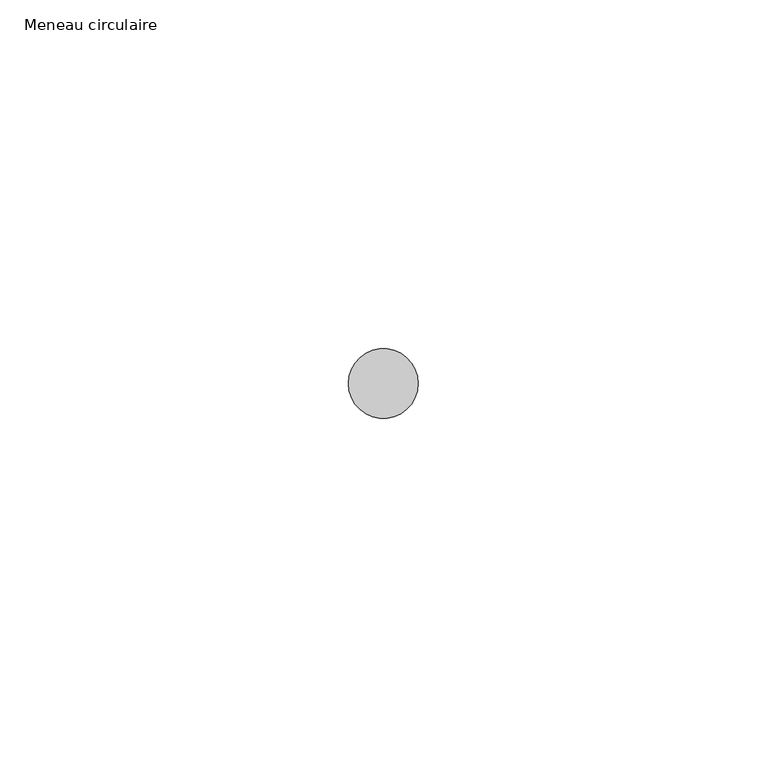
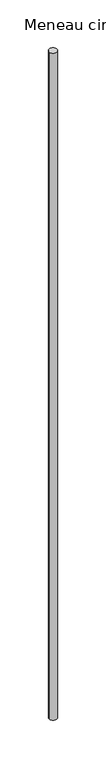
"""IFC4 building model written with IfcOpenShell, lengths in millimetres: member geometry, Meneau circulaire : Diamètre 1cm."""

from ifc_helpers import new_model, si_unit, point, frame, origin, origin_2d, place, context, project, spatial, circle_curve, trimmed, segment, composite_curve, outline, extrude, source, transform, mapped, element, save


def meneau_circulaire_5ba63e0a(model_context):
    return source(origin(), model_context, "Body", "SweptSolid", [
        extrude(outline(composite_curve([segment(trimmed(circle_curve(origin_2d(), 5.0), [point((5.0, 0.0))], [point((-5.0, 0.0))], False, "CARTESIAN"), True, "CONTINUOUS"), segment(trimmed(circle_curve(origin_2d(), 5.0), [point((-5.0, 0.0))], [point((5.0, 0.0))], False, "CARTESIAN"), True, "CONTINUOUS")], self_intersect=False)), frame((0.0, 0.0, -870.0), z_axis=(0.0, 0.0, 1.0), x_axis=(1.0, 0.0, 0.0)), (0.0, 0.0, 1.0), 870.0),
    ])


if __name__ == "__main__":
    model = new_model("IFC4")
    model_context = context("Model", 3, world=origin())
    ifc_project = project(units=[si_unit("LENGTHUNIT", "METRE", prefix="MILLI")], contexts=[model_context])
    site = spatial("IfcSite", under=ifc_project)
    building = spatial("IfcBuilding", under=site)
    placement = place(None, origin())
    meneau_circulaire_shape = meneau_circulaire_5ba63e0a(model_context)
    element("IfcMember", 1, ObjectType="Meneau circulaire : Diamètre 1cm", at=placement, inside=building, context=model_context, shape_type="MappedRepresentation", body=[
        mapped(meneau_circulaire_shape, transform((0.0, 0.0, 0.0), x_axis=(1.0, 0.0, 0.0), y_axis=(0.0, 1.0, 0.0), z_axis=(0.0, 0.0, 1.0))),
    ])
    save(model, "model.ifc")
